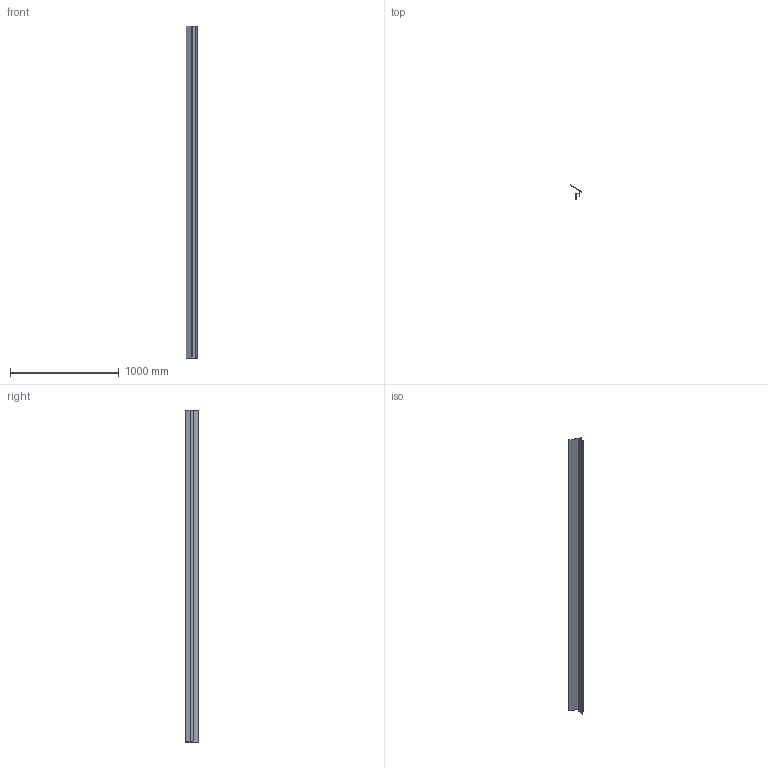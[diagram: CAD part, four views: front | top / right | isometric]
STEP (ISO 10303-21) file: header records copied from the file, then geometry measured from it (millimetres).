
FILE_DESCRIPTION (( 'STEP AP203' ), '1' );
FILE_NAME ('M60A.STEP', '2018-06-15T19:45:50', ( 'Michael Moliner' ), ( '' ), 'SwSTEP 2.0', 'SolidWorks 2018', '' );
FILE_SCHEMA (( 'CONFIG_CONTROL_DESIGN' ));
Length unit declared in the file: inch
Products named in the file (2): M60A
Bounding box: 107.07 x 126.88 x 3048 mm (x, y, z)
Volume: 474185.4 mm3; surface area: 1870279.7 mm2
Topology: 1 solids, 1 shells, 29 faces, 81 edges, 54 vertices
Faces by surface type: plane 18, cylinder 11
Entity records: 1094 total; most frequent: CARTESIAN_POINT 166, DIRECTION 165, ORIENTED_EDGE 162, EDGE_CURVE 81, VECTOR 59, LINE 59, VERTEX_POINT 54, AXIS2_PLACEMENT_3D 53
